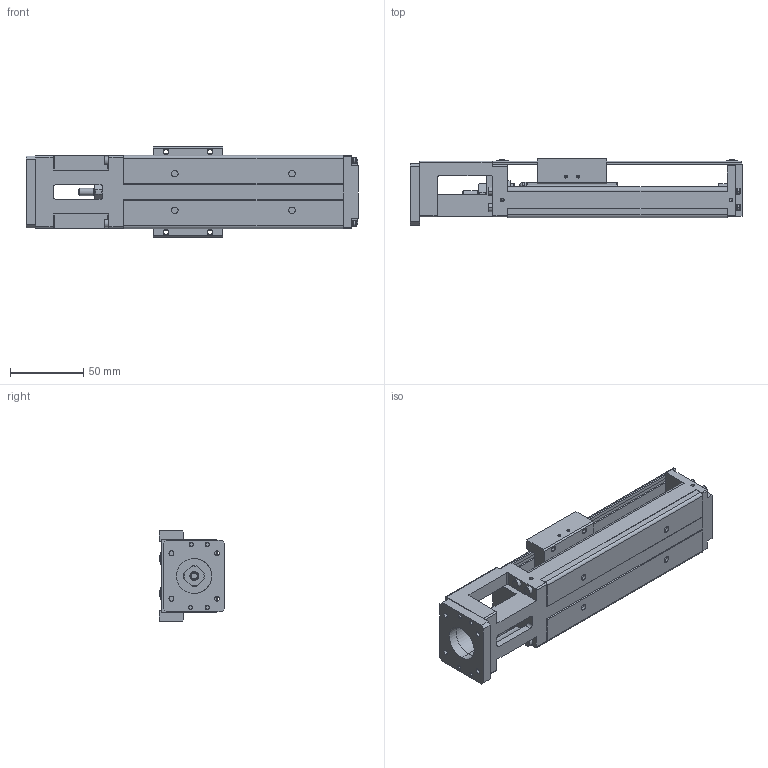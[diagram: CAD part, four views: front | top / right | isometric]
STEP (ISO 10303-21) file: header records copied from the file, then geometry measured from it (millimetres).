
FILE_DESCRIPTION (( 'STEP AP203' ), '1' );
FILE_NAME ('PA-26-150.STEP', '2010-06-10T15:33:06', ( 'render' ), ( '' ), 'SwSTEP 2.0', 'SolidWorks 2009', '' );
FILE_SCHEMA (( 'CONFIG_CONTROL_DESIGN' ));
Length unit declared in the file: millimetre
Products named in the file (1): PA-26-150
Bounding box: 226.5 x 45 x 62 mm (x, y, z)
Volume: 239356.6 mm3; surface area: 97494.8 mm2
Topology: 5 solids, 5 shells, 738 faces, 1907 edges, 1200 vertices
Faces by surface type: plane 305, cylinder 275, cone 136, bspline 22
Entity records: 22757 total; most frequent: CARTESIAN_POINT 4410, DIRECTION 3922, ORIENTED_EDGE 3730, EDGE_CURVE 1865, AXIS2_PLACEMENT_3D 1390, VERTEX_POINT 1200, VECTOR 1142, LINE 1142
